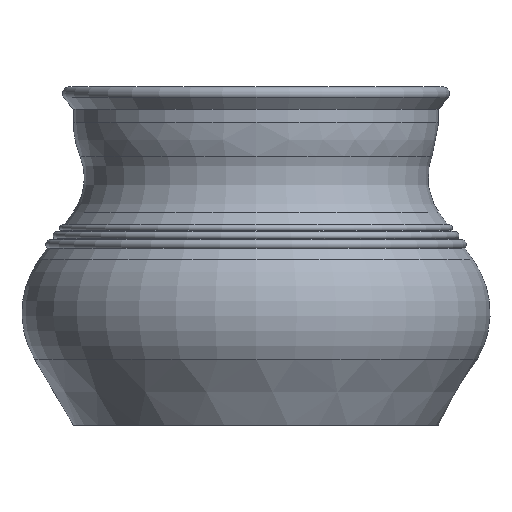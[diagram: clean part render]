
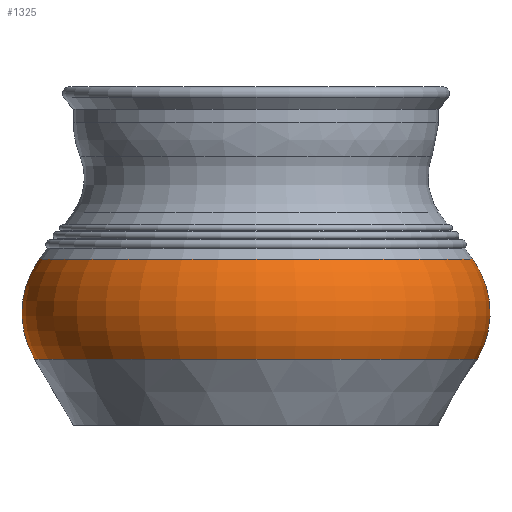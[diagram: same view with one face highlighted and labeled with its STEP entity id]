
A CAD part, front view. The second image highlights one B-rep face of the part: STEP entity #1325.
In plain terms, the highlighted toroidal (fillet/blend) face has major radius 105.473 mm and minor radius 67.527 mm.
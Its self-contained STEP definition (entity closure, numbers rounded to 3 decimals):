
#22=TOROIDAL_SURFACE('',#1503,105.473,67.527);
#166=FACE_OUTER_BOUND('',#284,.T.);
#284=EDGE_LOOP('',(#1208,#1209,#1210,#1211));
#526=CIRCLE('',#1467,163.68);
#549=CIRCLE('',#1504,160.242);
#550=CIRCLE('',#1505,67.527);
#653=VERTEX_POINT('',#2234);
#669=VERTEX_POINT('',#2349);
#818=EDGE_CURVE('',#653,#653,#526,.T.);
#849=EDGE_CURVE('',#669,#669,#549,.T.);
#850=EDGE_CURVE('',#669,#653,#550,.T.);
#1208=ORIENTED_EDGE('',*,*,#849,.F.);
#1209=ORIENTED_EDGE('',*,*,#850,.T.);
#1210=ORIENTED_EDGE('',*,*,#818,.T.);
#1211=ORIENTED_EDGE('',*,*,#850,.F.);
#1325=ADVANCED_FACE('',(#166),#22,.T.);
#1467=AXIS2_PLACEMENT_3D('',#2235,#1835,#1836);
#1503=AXIS2_PLACEMENT_3D('',#2348,#1915,#1916);
#1504=AXIS2_PLACEMENT_3D('',#2350,#1917,#1918);
#1505=AXIS2_PLACEMENT_3D('',#2351,#1919,#1920);
#1835=DIRECTION('center_axis',(0.,0.,1.));
#1836=DIRECTION('ref_axis',(1.,0.,0.));
#1915=DIRECTION('center_axis',(0.,0.,1.));
#1916=DIRECTION('ref_axis',(1.,0.,0.));
#1917=DIRECTION('center_axis',(0.,0.,1.));
#1918=DIRECTION('ref_axis',(1.,0.,0.));
#1919=DIRECTION('center_axis',(0.,-1.,0.));
#1920=DIRECTION('ref_axis',(-1.,0.,0.));
#2234=CARTESIAN_POINT('',(-163.68,0.,48.768));
#2235=CARTESIAN_POINT('Origin',(0.,0.,48.768));
#2348=CARTESIAN_POINT('Origin',(0.,0.,83.));
#2349=CARTESIAN_POINT('',(-160.242,0.,122.5));
#2350=CARTESIAN_POINT('Origin',(0.,0.,122.5));
#2351=CARTESIAN_POINT('Origin',(-105.473,0.,
83.));
